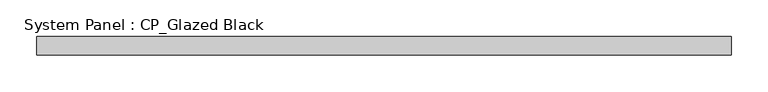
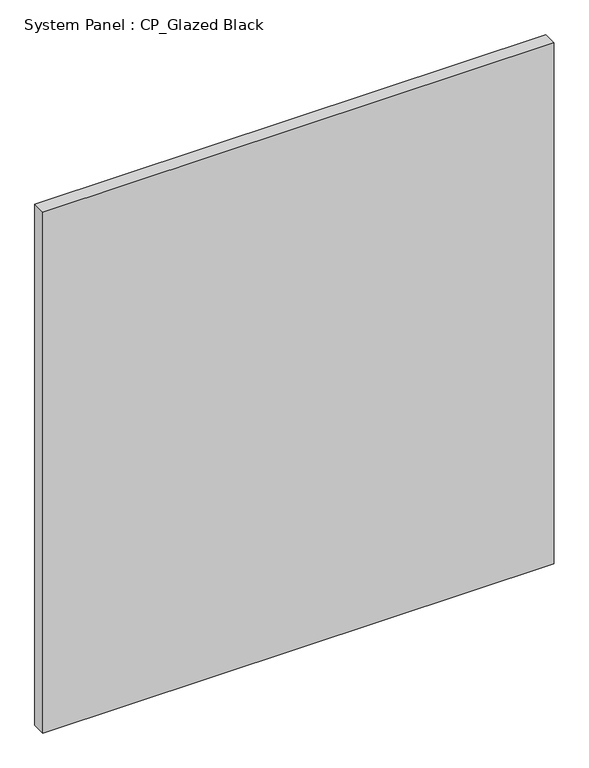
"""IFC4 building model written with IfcOpenShell, lengths in millimetres: plate geometry, System Panel : CP_Glazed Black."""

from ifc_helpers import new_model, si_unit, origin, origin_with_axes, place, context, project, spatial, polyline, outline, extrude, source, transform, mapped, element, save


def system_panel_cp_glazed_black_ea3be786(model_context):
    return source(origin(), model_context, "Body", "SweptSolid", [
        extrude(outline(polyline([(473.075, 19.05), (-473.075, 19.05), (-473.075, 44.45), (473.075, 44.45), (473.075, 19.05)])), origin_with_axes(), (0.0, 0.0, 1.0), 1019.175),
    ])


if __name__ == "__main__":
    model = new_model("IFC4")
    model_context = context("Model", 3, world=origin())
    ifc_project = project(units=[si_unit("LENGTHUNIT", "METRE", prefix="MILLI")], contexts=[model_context])
    site = spatial("IfcSite", under=ifc_project)
    building = spatial("IfcBuilding", under=site)
    placement = place(None, origin())
    system_panel_cp_glazed_black_shape = system_panel_cp_glazed_black_ea3be786(model_context)
    element("IfcPlate", 1, ObjectType="System Panel : CP_Glazed Black", at=placement, inside=building, context=model_context, shape_type="MappedRepresentation", body=[
        mapped(system_panel_cp_glazed_black_shape, transform((0.0, 0.0, 0.0), x_axis=(1.0, 0.0, 0.0), y_axis=(0.0, 1.0, 0.0), z_axis=(0.0, 0.0, 1.0))),
    ])
    save(model, "model.ifc")
